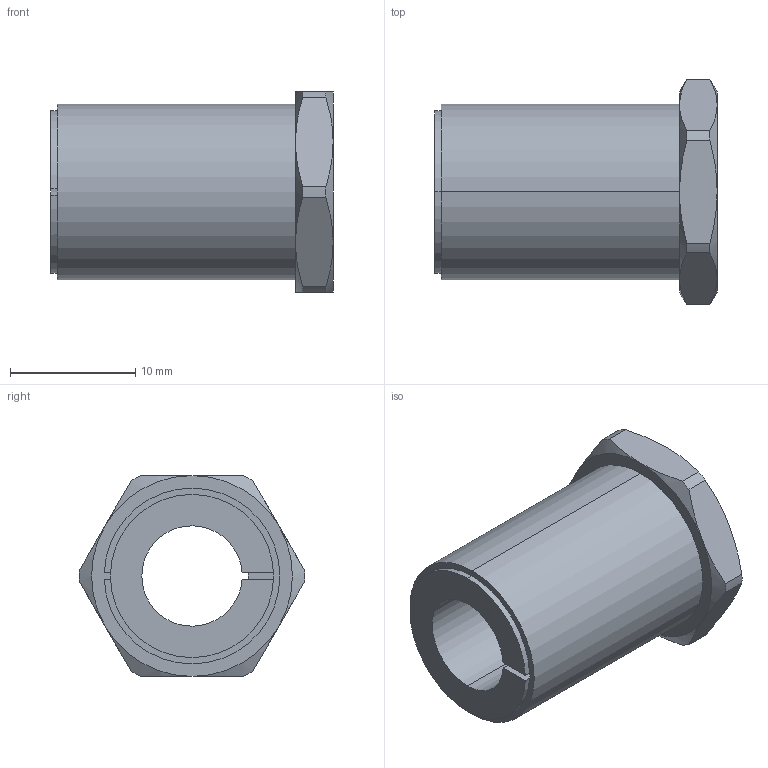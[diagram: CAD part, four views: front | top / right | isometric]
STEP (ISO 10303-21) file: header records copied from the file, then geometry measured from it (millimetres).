
FILE_DESCRIPTION (( 'STEP AP203' ), '1' );
FILE_NAME ('KBS 57 - 8 x 14.STEP', '2015-07-05T18:31:13', ( '' ), ( '' ), 'SwSTEP 2.0', 'SolidWorks 2010', '' );
FILE_SCHEMA (( 'CONFIG_CONTROL_DESIGN' ));
Length unit declared in the file: millimetre
Products named in the file (1): KBS 57 - 8 x 14
Bounding box: 22.5 x 18 x 16 mm (x, y, z)
Volume: 2476.2 mm3; surface area: 2038.5 mm2
Topology: 1 solids, 1 shells, 47 faces, 118 edges, 74 vertices
Faces by surface type: cylinder 16, plane 16, cone 15
Entity records: 1597 total; most frequent: CARTESIAN_POINT 396, DIRECTION 240, ORIENTED_EDGE 236, EDGE_CURVE 118, AXIS2_PLACEMENT_3D 100, VERTEX_POINT 74, CIRCLE 52, EDGE_LOOP 50
